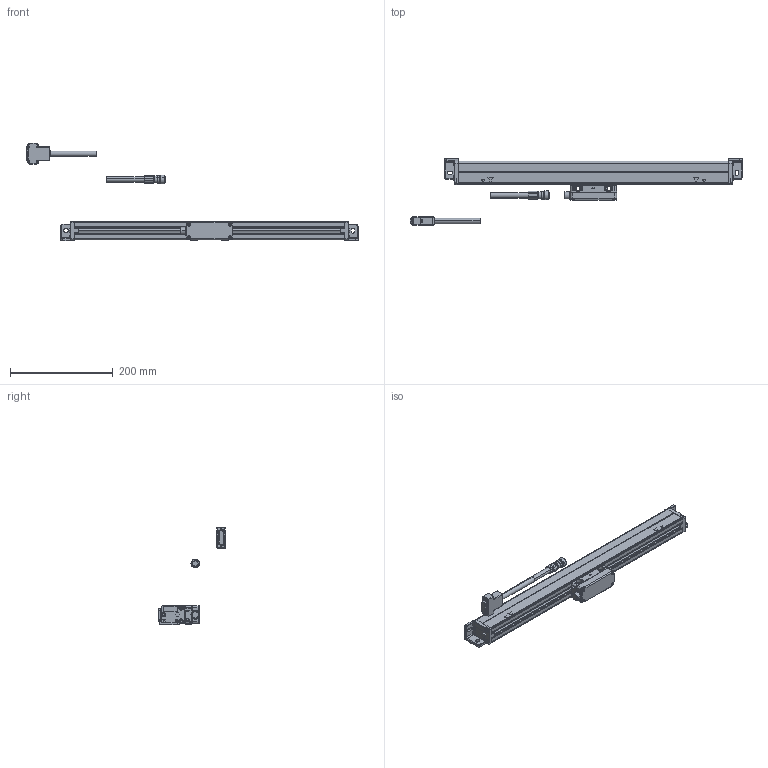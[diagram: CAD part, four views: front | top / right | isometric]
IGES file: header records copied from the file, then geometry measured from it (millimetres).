
Start section: Elysium IGES Interface
Global section: file name: 74H\\Utsu119s\kiyo_cad\data\3D\AT103\HP掲載用_201710\IGES\AT103_AT203-400.igs; native system: Creo Elements/Direct Modeling 18.1B  29-Sep-2012; preprocessor: Creo Element/Direct IGES_3D V2.2; author: Unknown; organization: Unknown; date: 20180105.135503; units: millimetre
Bounding box: 645.83 x 129 x 190.1 mm (x, y, z)
Volume: 956448 mm3; surface area: 145392.7 mm2
Topology: 4 solids, 8 shells, 1072 faces, 2607 edges, 1597 vertices
Faces by surface type: bspline 1072
